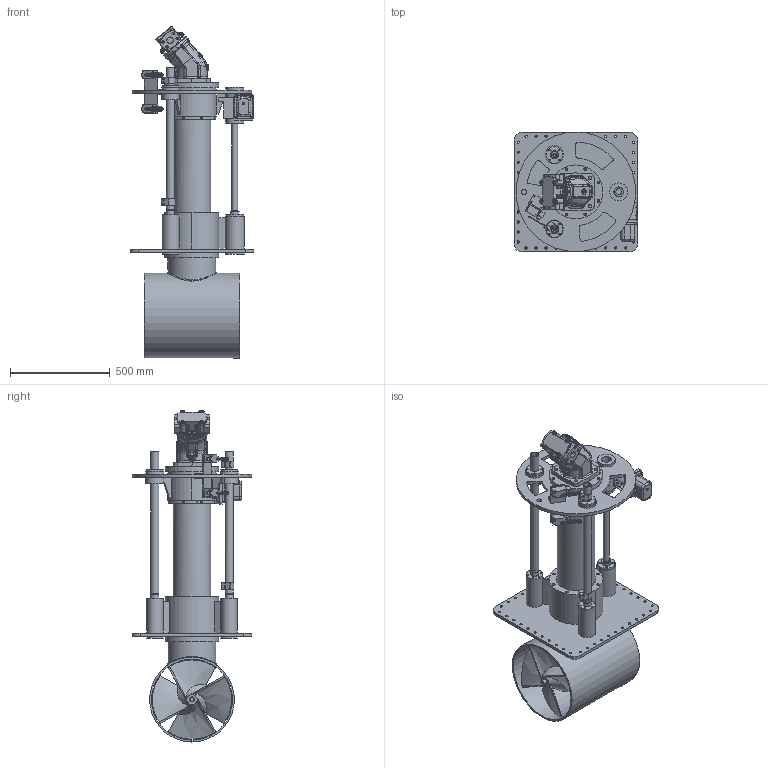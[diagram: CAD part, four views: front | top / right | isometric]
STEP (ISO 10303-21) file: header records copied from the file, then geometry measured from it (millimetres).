
FILE_DESCRIPTION(/* description */ (''),/* implementation_level */ '2;1');
FILE_NAME(/* name */ 'Q:\THRUSTERS\THRUSTER SALES & SUPPORT DOCS\THRUSTER Sales\H-V\H-0400-V\H-0400-V-RETRACTED.stp',/* time_stamp */ '2020-03-05T11:10:45+00:00',/* author */ ('charlotte.richardson'),/* organization */ (''),/* preprocessor_version */ 'ST-DEVELOPER v17',/* originating_system */ 'Autodesk Inventor 2019',/* authorisation */ '');
FILE_SCHEMA (('AUTOMOTIVE_DESIGN { 1 0 10303 214 3 1 1 }'));
Length unit declared in the file: millimetre
Products named in the file (1): H-0400-V_Shrinkwrap_1
Bounding box: 621 x 600 x 1665.79 mm (x, y, z)
Volume: 52222724 mm3; surface area: 6106668.7 mm2
Topology: 5 solids, 5 shells, 2378 faces, 6011 edges, 3898 vertices
Faces by surface type: cylinder 839, plane 819, bspline 393, cone 221, torus 76, sphere 30
Full cylindrical faces by diameter (mm): 3 x6, 5.1 x12, 5.134 x8, 5.2 x6, 5.5 x24, 6.2 x8, 6.5 x18, 6.647 x8, 6.76 x16, 6.8 x12, 7.2 x2, 8 x2, 8.3 x20, 8.38 x4, 8.5 x42, 9 x20, 10.3 x4, 11 x60, 11.8 x1, 12 x15, 13 x6, 14 x36, 14.5 x1, 14.95 x2, 15 x1, 16 x4, 16.5 x5, 17 x9, 17.5 x6, 18 x6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
Entity records: 112810 total; most frequent: CARTESIAN_POINT 53836, ORIENTED_EDGE 11868, DIRECTION 11632, EDGE_CURVE 5934, AXIS2_PLACEMENT_3D 4758, VERTEX_POINT 3896, EDGE_LOOP 2943, CIRCLE 2730
